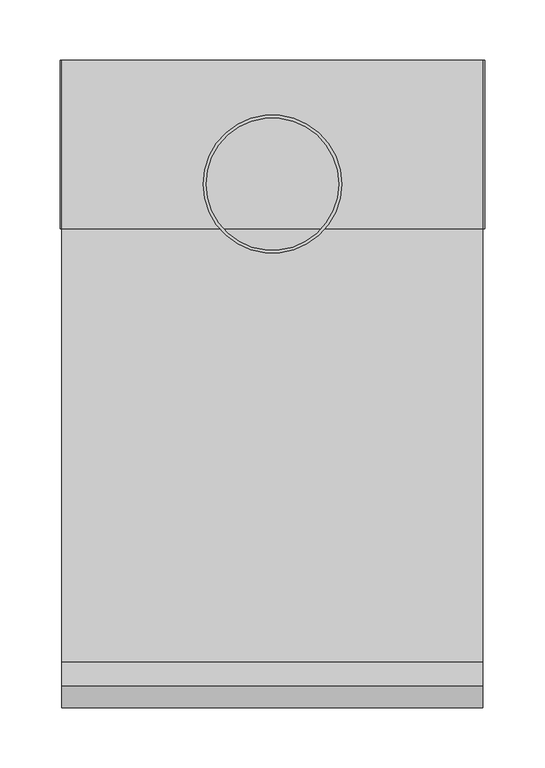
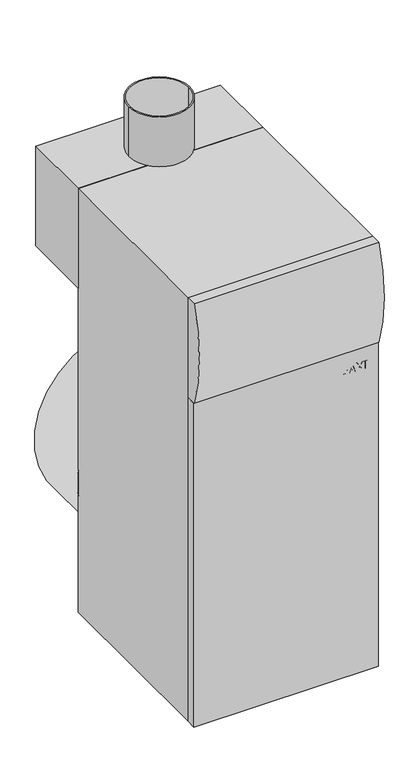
"""IFC4 building model written with IfcOpenShell, lengths in millimetres: proxy geometry, BAXI_ГазовыйКотел_Slim-i : BAXI_Газовый котел_Slim_1.150_i."""

from ifc_helpers import new_model, si_unit, point, frame, frame_2d, origin, origin_with_axes, place, context, project, spatial, polyline, circle_curve, trimmed, segment, composite_curve, outline, extrude, source, transform, mapped, element, save


def mechanical_equipment_bacb03d4(model_context):
    return source(origin(), model_context, "Body", "SweptSolid", [
        extrude(outline(composite_curve([segment(trimmed(circle_curve(frame_2d((260.3398592, 0.0)), 177.354555), [point((82.9853042, 0.0))], [point((437.6944142, 0.0))], False, "CARTESIAN"), True, "CONTINUOUS"), segment(trimmed(circle_curve(frame_2d((260.3398592, 0.0)), 177.354555), [point((437.6944142, 0.0))], [point((82.9853042, 0.0))], False, "CARTESIAN"), True, "CONTINUOUS")], self_intersect=False)), frame((0.0, -140.0, 0.0), z_axis=(0.0, 1.0, 0.0), x_axis=(0.0, 0.0, 1.0)), (0.0, 0.0, 1.0), 140.0),
        extrude(outline(polyline([(175.0, 0.0), (175.0, -140.0), (-175.0, -140.0), (-175.0, 0.0), (175.0, 0.0)])), frame((0.0, 0.0, 650.0), z_axis=(0.0, 0.0, 1.0), x_axis=(1.0, 0.0, 0.0)), (0.0, 0.0, 1.0), 200.0),
        extrude(outline(composite_curve([segment(trimmed(circle_curve(frame_2d((0.0, -103.0)), 57.5), [point((-57.5, -103.0))], [point((57.5, -103.0))], False, "CARTESIAN"), True, "CONTINUOUS"), segment(trimmed(circle_curve(frame_2d((0.0, -103.0)), 57.5), [point((57.5, -103.0))], [point((-57.5, -103.0))], False, "CARTESIAN"), True, "CONTINUOUS")], self_intersect=False), holes=[composite_curve([segment(trimmed(circle_curve(frame_2d((0.0, -103.0)), 55.0), [point((-55.0, -103.0))], [point((55.0, -103.0))], True, "CARTESIAN"), True, "CONTINUOUS"), segment(trimmed(circle_curve(frame_2d((0.0, -103.0)), 55.0), [point((55.0, -103.0))], [point((-55.0, -103.0))], True, "CARTESIAN"), True, "CONTINUOUS")], self_intersect=False)]), frame((0.0, 0.0, 850.0), z_axis=(0.0, 0.0, 1.0), x_axis=(1.0, 0.0, 0.0)), (0.0, 0.0, 1.0), 100.0),
        extrude(outline(composite_curve([segment(trimmed(circle_curve(frame_2d((60.0, 90.0)), 16.0), [point((44.0, 90.0))], [point((76.0, 90.0))], False, "CARTESIAN"), True, "CONTINUOUS"), segment(trimmed(circle_curve(frame_2d((60.0, 90.0)), 16.0), [point((76.0, 90.0))], [point((44.0, 90.0))], False, "CARTESIAN"), True, "CONTINUOUS")], self_intersect=False)), frame((0.0, -140.0, 0.0), z_axis=(0.0, 1.0, 0.0), x_axis=(0.0, 0.0, 1.0)), (0.0, 0.0, 1.0), 37.0),
        extrude(outline(composite_curve([segment(polyline([(-500.5, 650.0), (-520.5, 650.0)]), True, "CONTINUOUS"), segment(trimmed(circle_curve(frame_2d((-246.0821371, 750.0)), 292.0704769), [point((-520.5, 650.0))], [point((-520.5, 850.0))], False, "CARTESIAN"), True, "CONTINUOUS"), segment(polyline([(-520.5, 850.0), (-500.5, 850.0), (-500.5, 650.0)]), True, "CONTINUOUS")], self_intersect=False)), frame((-175.0, 0.0, 0.0), z_axis=(1.0, 0.0, 0.0), x_axis=(0.0, 1.0, 0.0)), (0.0, 0.0, 1.0), 350.0),
        extrude(outline(polyline([(175.0, -500.5), (175.0, -520.0), (-175.0, -520.0), (-175.0, -500.5), (175.0, -500.5)])), origin_with_axes(), (0.0, 0.0, 1.0), 650.0),
        extrude(outline(composite_curve([segment(trimmed(circle_curve(frame_2d((435.0, 133.0)), 7.5), [point((427.5, 133.0))], [point((442.5, 133.0))], False, "CARTESIAN"), True, "CONTINUOUS"), segment(trimmed(circle_curve(frame_2d((435.0, 133.0)), 7.5), [point((442.5, 133.0))], [point((427.5, 133.0))], False, "CARTESIAN"), True, "CONTINUOUS")], self_intersect=False)), frame((0.0, -140.0, 0.0), z_axis=(0.0, 1.0, 0.0), x_axis=(0.0, 0.0, 1.0)), (0.0, 0.0, 1.0), 37.0),
        extrude(outline(composite_curve([segment(trimmed(circle_curve(frame_2d((515.0, 133.0)), 10.0), [point((505.0, 133.0))], [point((525.0, 133.0))], False, "CARTESIAN"), True, "CONTINUOUS"), segment(trimmed(circle_curve(frame_2d((515.0, 133.0)), 10.0), [point((525.0, 133.0))], [point((505.0, 133.0))], False, "CARTESIAN"), True, "CONTINUOUS")], self_intersect=False)), frame((0.0, -140.0, 0.0), z_axis=(0.0, 1.0, 0.0), x_axis=(0.0, 0.0, 1.0)), (0.0, 0.0, 1.0), 37.0),
        extrude(outline(polyline([(175.0, -140.0), (175.0, -500.5), (-175.0, -500.5), (-175.0, -140.0), (175.0, -140.0)])), origin_with_axes(), (0.0, 0.0, 1.0), 850.0),
        extrude(outline(polyline([(621.6148871, 105.7694053), (606.3109961, 105.7694053), (606.3109961, 110.999753), (606.4134776, 114.7422224), (607.1365409, 116.8241133), (608.7041269, 118.1563717), (610.7252881, 118.6441073), (613.0216309, 117.9646935), (614.4032322, 116.0213422), (615.7582642, 117.5832349), (617.7395715, 118.1582695), (619.5405874, 117.6762273), (620.8272985, 116.4711218), (621.4630628, 114.8314192), (621.6148871, 112.0511364), (621.6148871, 105.7694053)]), holes=[polyline([(618.9427792, 108.6844322), (618.9427792, 110.6353747), (615.5912574, 113.3758036), (615.5419145, 110.9086584), (615.5419145, 108.6844322), (618.9427792, 108.6844322)]), polyline([(612.8698066, 108.6844322), (612.8698066, 111.3755182), (609.0741987, 114.0514218), (608.9831041, 111.7664658), (608.9831041, 108.6844322), (612.8698066, 108.6844322)])]), frame((0.0, -520.0, 0.0), z_axis=(0.0, 1.0, 0.0), x_axis=(0.0, 0.0, 1.0)), (0.0, 0.0, 1.0), 5.0),
        extrude(outline(polyline([(606.3109961, 133.9479983), (621.6148871, 128.307725), (621.6148871, 125.2029177), (606.3109961, 119.6157829), (606.3109961, 122.7205902), (609.7118608, 123.9048198), (609.7118608, 129.6855306), (606.3109961, 130.8849427), (606.3109961, 133.9479983)]), holes=[polyline([(612.3839688, 128.7518111), (612.3839688, 124.8385394), (617.9711036, 126.7818906), (612.3839688, 128.7518111)])]), frame((0.0, -520.0, 0.0), z_axis=(0.0, 1.0, 0.0), x_axis=(0.0, 0.0, 1.0)), (0.0, 0.0, 1.0), 5.0),
        extrude(outline(polyline([(606.3109961, 134.0694577), (606.3109961, 137.4779136), (611.7159418, 140.9926465), (606.3109961, 144.5073794), (606.3109961, 147.9158353), (614.3349112, 142.6968745), (621.6148871, 147.4299975), (621.6148871, 144.0215416), (616.9576763, 140.9926465), (621.6148871, 137.9637514), (621.6148871, 134.5552956), (614.3349112, 139.2884186), (606.3109961, 134.0694577)])), frame((0.0, -520.0, 0.0), z_axis=(0.0, 1.0, 0.0), x_axis=(0.0, 0.0, 1.0)), (0.0, 0.0, 1.0), 5.0),
        extrude(outline(polyline([(149.4948082, -515.0), (152.4098351, -515.0), (152.4098351, -520.0), (149.4948082, -520.0), (149.4948082, -515.0)])), frame((0.0, 0.0, 606.3109961), z_axis=(0.0, 0.0, 1.0), x_axis=(1.0, 0.0, 0.0)), (0.0, 0.0, 1.0), 15.303891),
    ])


if __name__ == "__main__":
    model = new_model("IFC4")
    model_context = context("Model", 3, world=origin())
    ifc_project = project(units=[si_unit("LENGTHUNIT", "METRE", prefix="MILLI")], contexts=[model_context])
    site = spatial("IfcSite", under=ifc_project)
    building = spatial("IfcBuilding", under=site)
    placement = place(None, origin())
    mechanical_equipment_shape = mechanical_equipment_bacb03d4(model_context)
    element("IfcBuildingElementProxy", 1, Name="BAXI_ГазовыйКотел_Slim-i : BAXI_Газовый котел_Slim_1.150_i", ObjectType="BAXI_ГазовыйКотел_Slim-i : BAXI_Газовый котел_Slim_1.150_i", at=placement, inside=building, context=model_context, shape_type="MappedRepresentation", body=[
        mapped(mechanical_equipment_shape, transform((0.0, 0.0, 0.0), x_axis=(1.0, 0.0, 0.0), y_axis=(0.0, 1.0, 0.0), z_axis=(0.0, 0.0, 1.0))),
    ])
    save(model, "model.ifc")
